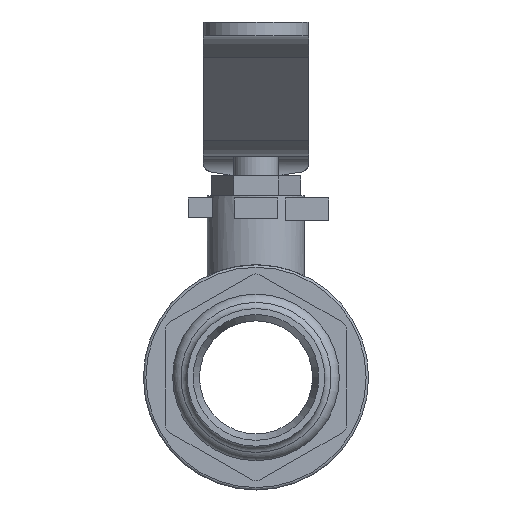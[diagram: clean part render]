
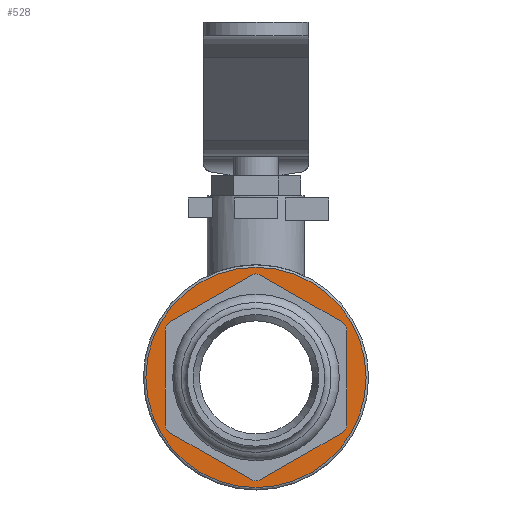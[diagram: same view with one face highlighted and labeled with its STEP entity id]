
A CAD part, left-side view. The second image highlights one B-rep face of the part: STEP entity #528.
In plain terms, the highlighted planar face has unit normal (-1, 0, 0).
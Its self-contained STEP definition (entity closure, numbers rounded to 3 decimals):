
#216=FACE_BOUND('',#951,.T.);
#217=FACE_BOUND('',#952,.T.);
#401=CIRCLE('',#3174,22.4);
#528=ADVANCED_FACE('',(#216,#217),#721,.F.);
#721=PLANE('',#3175);
#951=EDGE_LOOP('',(#1272,#1273,#1274,#1275,#1276,#1277,#1278,#1279,#1280,
#1281,#1282,#1283));
#952=EDGE_LOOP('',(#1284));
#1272=ORIENTED_EDGE('',*,*,#2324,.T.);
#1273=ORIENTED_EDGE('',*,*,#2325,.T.);
#1274=ORIENTED_EDGE('',*,*,#2326,.T.);
#1275=ORIENTED_EDGE('',*,*,#2327,.T.);
#1276=ORIENTED_EDGE('',*,*,#2328,.T.);
#1277=ORIENTED_EDGE('',*,*,#2329,.T.);
#1278=ORIENTED_EDGE('',*,*,#2330,.T.);
#1279=ORIENTED_EDGE('',*,*,#2331,.T.);
#1280=ORIENTED_EDGE('',*,*,#2332,.T.);
#1281=ORIENTED_EDGE('',*,*,#2333,.T.);
#1282=ORIENTED_EDGE('',*,*,#2334,.T.);
#1283=ORIENTED_EDGE('',*,*,#2335,.T.);
#1284=ORIENTED_EDGE('',*,*,#2336,.T.);
#2036=VERTEX_POINT('',#4501);
#2037=VERTEX_POINT('',#4502);
#2038=VERTEX_POINT('',#4504);
#2039=VERTEX_POINT('',#4506);
#2040=VERTEX_POINT('',#4508);
#2041=VERTEX_POINT('',#4510);
#2042=VERTEX_POINT('',#4512);
#2043=VERTEX_POINT('',#4514);
#2044=VERTEX_POINT('',#4516);
#2045=VERTEX_POINT('',#4518);
#2046=VERTEX_POINT('',#4520);
#2047=VERTEX_POINT('',#4522);
#2048=VERTEX_POINT('',#4525);
#2324=EDGE_CURVE('',#2036,#2037,#2695,.T.);
#2325=EDGE_CURVE('',#2037,#2038,#2696,.T.);
#2326=EDGE_CURVE('',#2038,#2039,#2697,.T.);
#2327=EDGE_CURVE('',#2039,#2040,#2698,.T.);
#2328=EDGE_CURVE('',#2040,#2041,#2699,.T.);
#2329=EDGE_CURVE('',#2041,#2042,#2700,.T.);
#2330=EDGE_CURVE('',#2042,#2043,#2701,.T.);
#2331=EDGE_CURVE('',#2043,#2044,#2702,.T.);
#2332=EDGE_CURVE('',#2044,#2045,#2703,.T.);
#2333=EDGE_CURVE('',#2045,#2046,#2704,.T.);
#2334=EDGE_CURVE('',#2046,#2047,#2705,.T.);
#2335=EDGE_CURVE('',#2047,#2036,#2706,.T.);
#2336=EDGE_CURVE('',#2048,#2048,#401,.T.);
#2695=LINE('',#4500,#2935);
#2696=LINE('',#4503,#2936);
#2697=LINE('',#4505,#2937);
#2698=LINE('',#4507,#2938);
#2699=LINE('',#4509,#2939);
#2700=LINE('',#4511,#2940);
#2701=LINE('',#4513,#2941);
#2702=LINE('',#4515,#2942);
#2703=LINE('',#4517,#2943);
#2704=LINE('',#4519,#2944);
#2705=LINE('',#4521,#2945);
#2706=LINE('',#4523,#2946);
#2935=VECTOR('',#3558,1.);
#2936=VECTOR('',#3559,1.);
#2937=VECTOR('',#3560,1.);
#2938=VECTOR('',#3561,1.);
#2939=VECTOR('',#3562,1.);
#2940=VECTOR('',#3563,1.);
#2941=VECTOR('',#3564,1.);
#2942=VECTOR('',#3565,1.);
#2943=VECTOR('',#3566,1.);
#2944=VECTOR('',#3567,1.);
#2945=VECTOR('',#3568,1.);
#2946=VECTOR('',#3569,1.);
#3174=AXIS2_PLACEMENT_3D('',#4524,#3570,#3571);
#3175=AXIS2_PLACEMENT_3D('',#4526,#3572,#3573);
#3558=DIRECTION('',(0.,-1.,0.));
#3559=DIRECTION('',(0.,-0.866,-0.5));
#3560=DIRECTION('',(0.,-0.5,-0.866));
#3561=DIRECTION('',(0.,0.,-1.));
#3562=DIRECTION('',(0.,0.5,-0.866));
#3563=DIRECTION('',(0.,0.866,-0.5));
#3564=DIRECTION('',(0.,1.,0.));
#3565=DIRECTION('',(0.,0.866,0.5));
#3566=DIRECTION('',(0.,0.5,0.866));
#3567=DIRECTION('',(0.,0.,1.));
#3568=DIRECTION('',(0.,-0.5,0.866));
#3569=DIRECTION('',(0.,-0.866,0.5));
#3570=DIRECTION('',(-1.,0.,0.));
#3571=DIRECTION('',(0.,0.,-1.));
#3572=DIRECTION('',(1.,0.,0.));
#3573=DIRECTION('',(0.,0.,-1.));
#4500=CARTESIAN_POINT('',(-19.5,1.732,20.131));
#4501=CARTESIAN_POINT('',(-19.5,1.732,20.131));
#4502=CARTESIAN_POINT('',(-19.5,-1.732,20.131));
#4503=CARTESIAN_POINT('',(-19.5,0.,21.131));
#4504=CARTESIAN_POINT('',(-19.5,-16.568,11.566));
#4505=CARTESIAN_POINT('',(-19.5,-16.568,11.566));
#4506=CARTESIAN_POINT('',(-19.5,-18.3,8.566));
#4507=CARTESIAN_POINT('',(-19.5,-18.3,10.566));
#4508=CARTESIAN_POINT('',(-19.5,-18.3,-8.566));
#4509=CARTESIAN_POINT('',(-19.5,-18.3,-8.566));
#4510=CARTESIAN_POINT('',(-19.5,-16.568,-11.566));
#4511=CARTESIAN_POINT('',(-19.5,-18.3,-10.566));
#4512=CARTESIAN_POINT('',(-19.5,-1.732,-20.131));
#4513=CARTESIAN_POINT('',(-19.5,-1.732,-20.131));
#4514=CARTESIAN_POINT('',(-19.5,1.732,-20.131));
#4515=CARTESIAN_POINT('',(-19.5,0.,-21.131));
#4516=CARTESIAN_POINT('',(-19.5,16.568,-11.566));
#4517=CARTESIAN_POINT('',(-19.5,16.568,-11.566));
#4518=CARTESIAN_POINT('',(-19.5,18.3,-8.566));
#4519=CARTESIAN_POINT('',(-19.5,18.3,-10.566));
#4520=CARTESIAN_POINT('',(-19.5,18.3,8.566));
#4521=CARTESIAN_POINT('',(-19.5,18.3,8.566));
#4522=CARTESIAN_POINT('',(-19.5,16.568,11.566));
#4523=CARTESIAN_POINT('',(-19.5,18.3,10.566));
#4524=CARTESIAN_POINT('',(-19.5,0.,0.));
#4525=CARTESIAN_POINT('',(-19.5,0.,-22.4));
#4526=CARTESIAN_POINT('',(-19.5,0.,0.));
